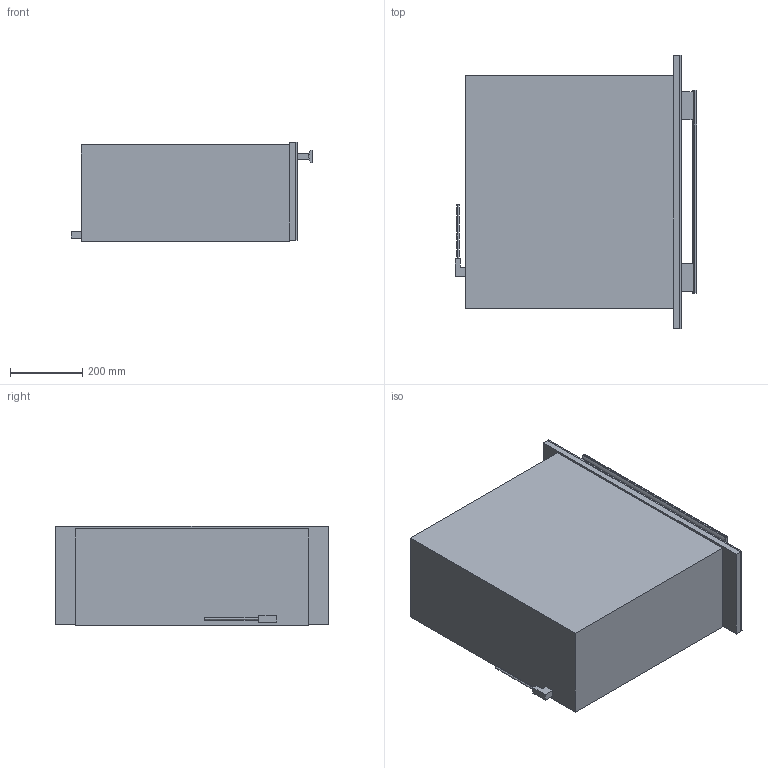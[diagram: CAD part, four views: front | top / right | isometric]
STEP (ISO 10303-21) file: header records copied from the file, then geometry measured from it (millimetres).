
FILE_DESCRIPTION(/* description */ (''),/* implementation_level */ '2;1');
FILE_NAME(/* name */ 'ESW6880_CLST',/* time_stamp */ '2013-10-17T16:14:18+02:00',/* author */ (''),/* organization */ (''),/* preprocessor_version */ 'ST-DEVELOPER v10',/* originating_system */ '',/* authorisation */ '');
FILE_SCHEMA (('AUTOMOTIVE_DESIGN_CC2'));
Length unit declared in the file: millimetre
Products named in the file (1): 1
Bounding box: 669.6 x 757 x 275.01 mm (x, y, z)
Volume: 105543997 mm3; surface area: 2475803.4 mm2
Topology: 9 solids, 9 shells, 80 faces, 166 edges, 100 vertices
Faces by surface type: bspline 80
Entity records: 2449 total; most frequent: CARTESIAN_POINT 1343, ORIENTED_EDGE 324, EDGE_CURVE 162, B_SPLINE_CURVE_WITH_KNOTS 116, VERTEX_POINT 100, ADVANCED_FACE 80, FACE_OUTER_BOUND 80, EDGE_LOOP 80
